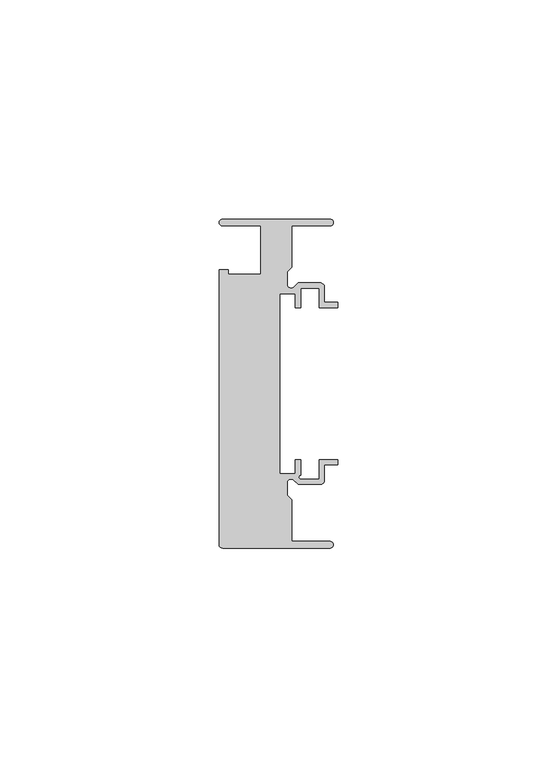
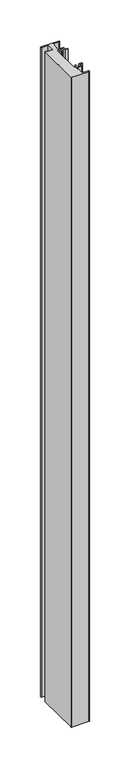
"""IFC4 building model written with IfcOpenShell, lengths in millimetres: member geometry, Прямоугольный импост : 5-AMG-1-Профиль 26Х75 Низ Л."""

from ifc_helpers import new_model, si_unit, point, frame, frame_2d, origin, place, context, project, spatial, polyline, circle_curve, trimmed, segment, composite_curve, outline, extrude, source, transform, mapped, element, save


def member_b056f3ee(model_context):
    return source(origin(), model_context, "Body", "SweptSolid", [
        extrude(outline(composite_curve([segment(trimmed(circle_curve(frame_2d((-1.7, 36.75)), 0.75), [point((-1.7, 37.5))], [point((-1.7, 36.0))], False, "CARTESIAN"), True, "CONTINUOUS"), segment(polyline([(-1.7, 36.0), (-10.5, 36.0), (-10.5, 26.5029437), (-11.5, 25.5029437), (-11.5, 22.6727922)]), True, "CONTINUOUS"), segment(trimmed(circle_curve(frame_2d((-10.6, 22.6727922)), 0.9), [point((-11.5, 22.6727922))], [point((-9.9636039, 22.0363961))], True, "CARTESIAN"), True, "CONTINUOUS"), segment(polyline([(-9.9636039, 22.0363961), (-9.0, 23.0), (-4.0, 23.0)]), True, "CONTINUOUS"), segment(trimmed(circle_curve(frame_2d((-4.0, 22.0)), 1.0), [point((-4.0, 23.0))], [point((-3.0, 22.0))], False, "CARTESIAN"), True, "CONTINUOUS"), segment(polyline([(-3.0, 22.0), (-3.0, 18.55), (0.0, 18.55), (0.0, 17.35), (-4.2, 17.35), (-4.2, 21.8), (-8.45, 21.8), (-8.45, 17.35), (-9.65, 17.35), (-9.65, 20.55), (-13.15, 20.55), (-13.15, -20.55), (-9.65, -20.55), (-9.65, -17.35), (-8.45, -17.35), (-8.45, -20.8470563)]), True, "CONTINUOUS"), segment(trimmed(circle_curve(frame_2d((-8.3343131, -21.3314262)), 0.4979937), [point((-8.45, -20.8470563))], [point((-8.5029437, -21.8))], True, "CARTESIAN"), True, "CONTINUOUS"), segment(polyline([(-8.5029437, -21.8), (-4.2, -21.8), (-4.2, -17.35), (0.0, -17.35), (0.0, -18.55), (-3.0, -18.55), (-3.0, -22.0)]), True, "CONTINUOUS"), segment(trimmed(circle_curve(frame_2d((-4.0, -22.0)), 1.0), [point((-3.0, -22.0))], [point((-4.0, -23.0))], False, "CARTESIAN"), True, "CONTINUOUS"), segment(polyline([(-4.0, -23.0), (-9.0, -23.0), (-9.9636039, -22.0363961)]), True, "CONTINUOUS"), segment(trimmed(circle_curve(frame_2d((-10.6, -22.6727922)), 0.9), [point((-9.9636039, -22.0363961))], [point((-11.5, -22.6727922))], True, "CARTESIAN"), True, "CONTINUOUS"), segment(polyline([(-11.5, -22.6727922), (-11.5, -25.5029437), (-10.5, -26.5029437), (-10.5, -36.0), (-1.7, -36.0)]), True, "CONTINUOUS"), segment(trimmed(circle_curve(frame_2d((-1.7, -36.75)), 0.75), [point((-1.7, -36.0))], [point((-1.7, -37.5))], False, "CARTESIAN"), True, "CONTINUOUS"), segment(polyline([(-1.7, -37.5), (-26.25, -37.5)]), True, "CONTINUOUS"), segment(trimmed(circle_curve(frame_2d((-26.25, -36.75)), 0.75), [point((-26.25, -37.5))], [point((-27.0, -36.75))], False, "CARTESIAN"), True, "CONTINUOUS"), segment(polyline([(-27.0, -36.75), (-27.0, 26.0), (-24.9359877, 26.0), (-24.9359877, 25.0), (-17.5, 25.0), (-17.5, 36.0), (-26.25, 36.0)]), True, "CONTINUOUS"), segment(trimmed(circle_curve(frame_2d((-26.25, 36.75)), 0.75), [point((-26.25, 36.0))], [point((-26.25, 37.5))], False, "CARTESIAN"), True, "CONTINUOUS"), segment(polyline([(-26.25, 37.5), (-1.7, 37.5)]), True, "CONTINUOUS")], self_intersect=False)), frame((0.0, 0.0, -973.0), z_axis=(0.0, 0.0, 1.0), x_axis=(1.0, 0.0, 0.0)), (0.0, 0.0, 1.0), 973.0),
    ])


if __name__ == "__main__":
    model = new_model("IFC4")
    model_context = context("Model", 3, world=origin())
    ifc_project = project(units=[si_unit("LENGTHUNIT", "METRE", prefix="MILLI")], contexts=[model_context])
    site = spatial("IfcSite", under=ifc_project)
    building = spatial("IfcBuilding", under=site)
    placement = place(None, origin())
    member_shape = member_b056f3ee(model_context)
    element("IfcMember", 1, ObjectType="Прямоугольный импост : 5-AMG-1-Профиль 26Х75 Низ Л", at=placement, inside=building, context=model_context, shape_type="MappedRepresentation", body=[
        mapped(member_shape, transform((0.0, 0.0, 0.0), x_axis=(1.0, 0.0, 0.0), y_axis=(0.0, 1.0, 0.0), z_axis=(0.0, 0.0, 1.0))),
    ])
    save(model, "model.ifc")
